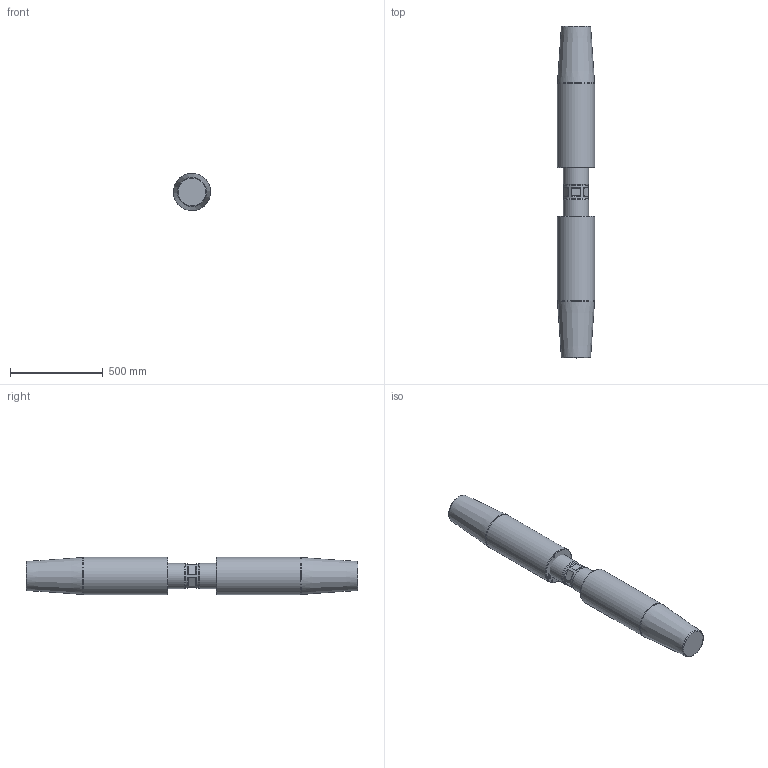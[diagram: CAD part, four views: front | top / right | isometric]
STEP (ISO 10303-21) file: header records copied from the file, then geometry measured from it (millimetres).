
FILE_DESCRIPTION(/* description */ (''),/* implementation_level */ '2;1');
FILE_NAME(/* name */ 'D:\Clienti\Redaelli (inventor)\CYA\STEP\Arrangement\CYA068 52 061 2.stp',/* time_stamp */ '2021-05-09T10:21:31+02:00',/* author */ ('fabri'),/* organization */ (''),/* preprocessor_version */ 'ST-DEVELOPER v16.13',/* originating_system */ 'Autodesk Inventor 2018',/* authorisation */ '');
FILE_SCHEMA (('AUTOMOTIVE_DESIGN { 1 0 10303 214 3 1 1 }'));
Length unit declared in the file: millimetre
Products named in the file (4): CYA012-54-062-0; TBF012-12-012-1; TBF012-13-012-0; TBF012-13-012-0_1
Assembly tree (3 placements, depth 2):
  CYA012-54-062-0
    TBF012-12-012-1
    TBF012-13-012-0
    TBF012-13-012-0_1
Bounding box: 199.87 x 1788 x 199.87 mm (x, y, z)
Volume: 55862081.8 mm3; surface area: 1401470 mm2
Topology: 3 solids, 3 shells, 532 faces, 1416 edges, 942 vertices
Faces by surface type: bspline 306, plane 183, cylinder 25, cone 14, torus 4
Full cylindrical faces by diameter (mm): 8.376 x6, 10.106 x2, 131 x1, 135 x2, 200 x2
Entity records: 18304 total; most frequent: CARTESIAN_POINT 7218, ORIENTED_EDGE 2754, EDGE_CURVE 1377, DIRECTION 1249, VERTEX_POINT 934, LINE 703, VECTOR 703, B_SPLINE_CURVE_WITH_KNOTS 632
